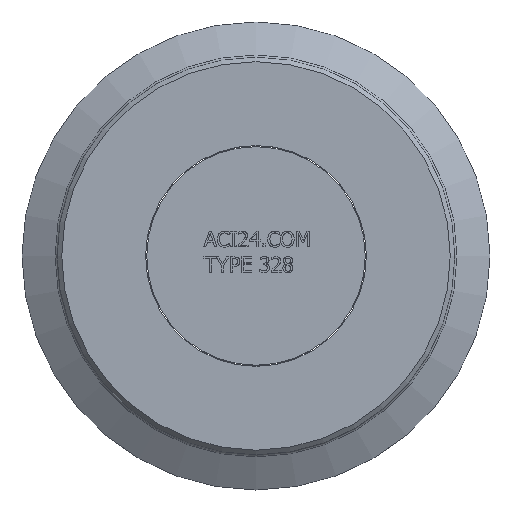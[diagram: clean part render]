
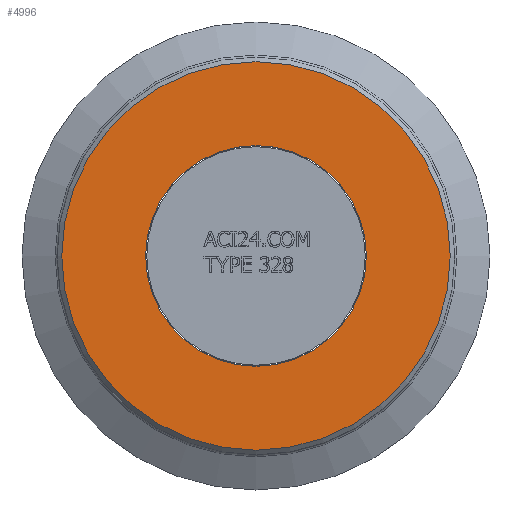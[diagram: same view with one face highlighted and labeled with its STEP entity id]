
A CAD part, top view. The second image highlights one B-rep face of the part: STEP entity #4996.
In plain terms, the highlighted planar face has unit normal (0, 0, 1).
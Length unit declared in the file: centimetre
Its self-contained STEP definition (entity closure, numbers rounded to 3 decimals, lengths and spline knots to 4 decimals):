
#27=CIRCLE('',#5157,4.4);
#29=CIRCLE('',#5161,2.5);
#85=FACE_BOUND('',#992,.T.);
#697=FACE_OUTER_BOUND('',#991,.T.);
#991=EDGE_LOOP('',(#4569));
#992=EDGE_LOOP('',(#4570));
#2430=VERTEX_POINT('',#8913);
#2432=VERTEX_POINT('',#8919);
#3146=EDGE_CURVE('',#2430,#2430,#27,.T.);
#3148=EDGE_CURVE('',#2432,#2432,#29,.T.);
#4569=ORIENTED_EDGE('',*,*,#3146,.F.);
#4570=ORIENTED_EDGE('',*,*,#3148,.F.);
#4732=PLANE('',#5160);
#4996=ADVANCED_FACE('',(#697,#85),#4732,.T.);
#5157=AXIS2_PLACEMENT_3D('',#8914,#5951,#5952);
#5160=AXIS2_PLACEMENT_3D('',#8918,#5957,#5958);
#5161=AXIS2_PLACEMENT_3D('',#8920,#5959,#5960);
#5951=DIRECTION('center_axis',(0.,0.,
-1.));
#5952=DIRECTION('ref_axis',(0.,-1.,0.));
#5957=DIRECTION('center_axis',(0.,0.,
1.));
#5958=DIRECTION('ref_axis',(0.,1.,0.));
#5959=DIRECTION('center_axis',(0.,0.,
1.));
#5960=DIRECTION('ref_axis',(-1.,0.,0.));
#8913=CARTESIAN_POINT('',(0.,4.4,0.5));
#8914=CARTESIAN_POINT('Origin',(0.,0.,
0.5));
#8918=CARTESIAN_POINT('Origin',(0.,2.5,0.5));
#8919=CARTESIAN_POINT('',(0.,2.5,0.5));
#8920=CARTESIAN_POINT('Origin',(0.,0.,
0.5));
